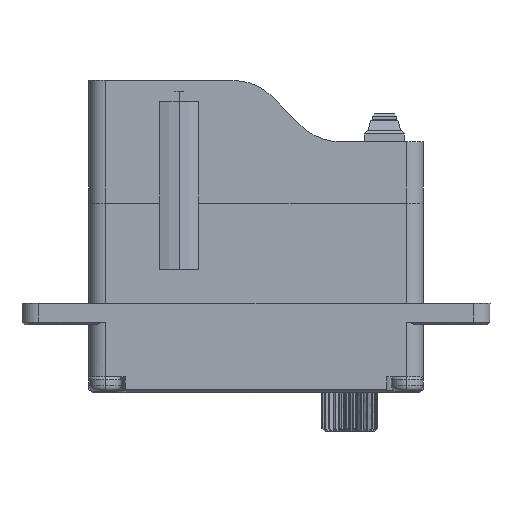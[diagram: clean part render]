
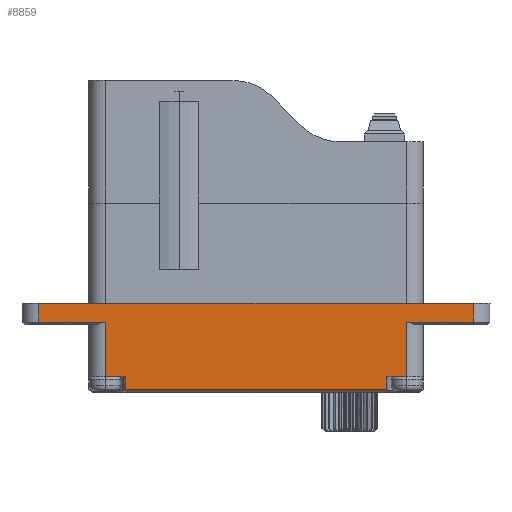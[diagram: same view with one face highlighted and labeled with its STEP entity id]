
A CAD part, left-side view. The second image highlights one B-rep face of the part: STEP entity #8859.
In plain terms, the highlighted planar face has unit normal (-1, 0, 0).
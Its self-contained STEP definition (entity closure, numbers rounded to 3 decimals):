
#140 = EDGE_CURVE ( 'NONE', #14722, #6959, #16336, .T. ) ;
#341 = LINE ( 'NONE', #5564, #12575 ) ;
#704 = EDGE_CURVE ( 'NONE', #17318, #14722, #17874, .T. ) ;
#849 = VECTOR ( 'NONE', #17345, 1000. ) ;
#1075 = ORIENTED_EDGE ( 'NONE', *, *, #17846, .T. ) ;
#1195 = EDGE_CURVE ( 'NONE', #5391, #12480, #5335, .T. ) ;
#1291 = VERTEX_POINT ( 'NONE', #8530 ) ;
#1302 = VERTEX_POINT ( 'NONE', #15300 ) ;
#1438 = ORIENTED_EDGE ( 'NONE', *, *, #9305, .T. ) ;
#1478 = CARTESIAN_POINT ( 'NONE',  ( -42.56, 0.711, -10.84 ) ) ;
#1915 = EDGE_CURVE ( 'NONE', #20252, #11994, #9716, .T. ) ;
#1923 = ORIENTED_EDGE ( 'NONE', *, *, #140, .T. ) ;
#2040 = DIRECTION ( 'NONE',  ( 0., -1., 0. ) ) ;
#2132 = CARTESIAN_POINT ( 'NONE',  ( -42.56, 0.711, -11.54 ) ) ;
#2500 = VECTOR ( 'NONE', #3343, 1000. ) ;
#2538 = ORIENTED_EDGE ( 'NONE', *, *, #20520, .T. ) ;
#2729 = LINE ( 'NONE', #8741, #6360 ) ;
#3173 = LINE ( 'NONE', #18881, #849 ) ;
#3255 = CARTESIAN_POINT ( 'NONE',  ( -42.56, 2.461, -9.74 ) ) ;
#3343 = DIRECTION ( 'NONE',  ( 0., 0., -1. ) ) ;
#3357 = VECTOR ( 'NONE', #5794, 1000. ) ;
#4381 = CARTESIAN_POINT ( 'NONE',  ( -42.56, -32.489, -10.84 ) ) ;
#4529 = DIRECTION ( 'NONE',  ( 0., -1., 0. ) ) ;
#4621 = VECTOR ( 'NONE', #4529, 1000. ) ;
#4699 = ORIENTED_EDGE ( 'NONE', *, *, #8724, .T. ) ;
#5178 = VERTEX_POINT ( 'NONE', #16434 ) ;
#5288 = VECTOR ( 'NONE', #5927, 1000. ) ;
#5335 = LINE ( 'NONE', #10081, #10315 ) ;
#5391 = VERTEX_POINT ( 'NONE', #5581 ) ;
#5564 = CARTESIAN_POINT ( 'NONE',  ( -42.56, 2.461, -11.54 ) ) ;
#5581 = CARTESIAN_POINT ( 'NONE',  ( -42.56, -22.789, -9.74 ) ) ;
#5794 = DIRECTION ( 'NONE',  ( 0., 0., 1. ) ) ;
#5844 = CARTESIAN_POINT ( 'NONE',  ( -42.56, 2.461, -4.84 ) ) ;
#5927 = DIRECTION ( 'NONE',  ( 0., -1., 0. ) ) ;
#6002 = CARTESIAN_POINT ( 'NONE',  ( -42.56, -32.489, -11.54 ) ) ;
#6073 = PLANE ( 'NONE',  #14100 ) ;
#6263 = EDGE_CURVE ( 'NONE', #11994, #5391, #9909, .T. ) ;
#6360 = VECTOR ( 'NONE', #11965, 1000. ) ;
#6959 = VERTEX_POINT ( 'NONE', #5844 ) ;
#6983 = CARTESIAN_POINT ( 'NONE',  ( -42.56, 8.461, -4.84 ) ) ;
#7051 = ORIENTED_EDGE ( 'NONE', *, *, #6263, .T. ) ;
#8032 = ORIENTED_EDGE ( 'NONE', *, *, #1195, .T. ) ;
#8379 = VERTEX_POINT ( 'NONE', #10726 ) ;
#8530 = CARTESIAN_POINT ( 'NONE',  ( -42.56, -24.539, -4.84 ) ) ;
#8695 = VECTOR ( 'NONE', #20339, 1000. ) ;
#8724 = EDGE_CURVE ( 'NONE', #1302, #8379, #3173, .T. ) ;
#8741 = CARTESIAN_POINT ( 'NONE',  ( -42.56, -34.139, -3.14 ) ) ;
#8859 = ADVANCED_FACE ( 'NONE', ( #16711 ), #6073, .T. ) ;
#9305 = EDGE_CURVE ( 'NONE', #12480, #1291, #14908, .T. ) ;
#9348 = EDGE_CURVE ( 'NONE', #1291, #1302, #20666, .T. ) ;
#9578 = CARTESIAN_POINT ( 'NONE',  ( -42.56, 8.461, -3.14 ) ) ;
#9716 = LINE ( 'NONE', #4381, #5288 ) ;
#9743 = VERTEX_POINT ( 'NONE', #3255 ) ;
#9748 = CARTESIAN_POINT ( 'NONE',  ( -42.56, -24.539, -9.74 ) ) ;
#9909 = LINE ( 'NONE', #10216, #3357 ) ;
#9977 = DIRECTION ( 'NONE',  ( 0., -1., 0. ) ) ;
#10081 = CARTESIAN_POINT ( 'NONE',  ( -42.56, -32.489, -9.74 ) ) ;
#10216 = CARTESIAN_POINT ( 'NONE',  ( -42.56, -22.789, -11.54 ) ) ;
#10315 = VECTOR ( 'NONE', #2040, 1000. ) ;
#10500 = DIRECTION ( 'NONE',  ( 0., 0., -1. ) ) ;
#10726 = CARTESIAN_POINT ( 'NONE',  ( -42.56, -30.539, -3.14 ) ) ;
#11080 = EDGE_LOOP ( 'NONE', ( #4699, #2538, #17354, #1923, #17307, #1075, #15774, #20752, #7051, #8032, #1438, #19348 ) ) ;
#11494 = LINE ( 'NONE', #2132, #18769 ) ;
#11831 = CARTESIAN_POINT ( 'NONE',  ( -42.56, 8.461, -11.54 ) ) ;
#11965 = DIRECTION ( 'NONE',  ( 0., 1., 0. ) ) ;
#11994 = VERTEX_POINT ( 'NONE', #14692 ) ;
#12133 = DIRECTION ( 'NONE',  ( 0., 0., -1. ) ) ;
#12473 = DIRECTION ( 'NONE',  ( -1., 0., 0. ) ) ;
#12480 = VERTEX_POINT ( 'NONE', #9748 ) ;
#12575 = VECTOR ( 'NONE', #10500, 1000. ) ;
#12666 = EDGE_CURVE ( 'NONE', #6959, #9743, #341, .T. ) ;
#13591 = CARTESIAN_POINT ( 'NONE',  ( -42.56, -24.539, -11.54 ) ) ;
#14100 = AXIS2_PLACEMENT_3D ( 'NONE', #6002, #12473, #20782 ) ;
#14692 = CARTESIAN_POINT ( 'NONE',  ( -42.56, -22.789, -10.84 ) ) ;
#14722 = VERTEX_POINT ( 'NONE', #6983 ) ;
#14908 = LINE ( 'NONE', #13591, #8695 ) ;
#15300 = CARTESIAN_POINT ( 'NONE',  ( -42.56, -30.539, -4.84 ) ) ;
#15774 = ORIENTED_EDGE ( 'NONE', *, *, #16055, .T. ) ;
#16055 = EDGE_CURVE ( 'NONE', #5178, #20252, #11494, .T. ) ;
#16201 = VECTOR ( 'NONE', #19065, 1000. ) ;
#16336 = LINE ( 'NONE', #19550, #4621 ) ;
#16434 = CARTESIAN_POINT ( 'NONE',  ( -42.56, 0.711, -9.74 ) ) ;
#16711 = FACE_OUTER_BOUND ( 'NONE', #11080, .T. ) ;
#17307 = ORIENTED_EDGE ( 'NONE', *, *, #12666, .T. ) ;
#17318 = VERTEX_POINT ( 'NONE', #9578 ) ;
#17345 = DIRECTION ( 'NONE',  ( 0., 0., 1. ) ) ;
#17354 = ORIENTED_EDGE ( 'NONE', *, *, #704, .T. ) ;
#17846 = EDGE_CURVE ( 'NONE', #9743, #5178, #19396, .T. ) ;
#17874 = LINE ( 'NONE', #11831, #2500 ) ;
#18630 = VECTOR ( 'NONE', #9977, 1000. ) ;
#18769 = VECTOR ( 'NONE', #12133, 1000. ) ;
#18854 = CARTESIAN_POINT ( 'NONE',  ( -42.56, -32.489, -4.84 ) ) ;
#18881 = CARTESIAN_POINT ( 'NONE',  ( -42.56, -30.539, -11.54 ) ) ;
#19065 = DIRECTION ( 'NONE',  ( 0., -1., 0. ) ) ;
#19348 = ORIENTED_EDGE ( 'NONE', *, *, #9348, .T. ) ;
#19396 = LINE ( 'NONE', #21394, #18630 ) ;
#19550 = CARTESIAN_POINT ( 'NONE',  ( -42.56, -32.489, -4.84 ) ) ;
#20252 = VERTEX_POINT ( 'NONE', #1478 ) ;
#20339 = DIRECTION ( 'NONE',  ( 0., 0., 1. ) ) ;
#20520 = EDGE_CURVE ( 'NONE', #8379, #17318, #2729, .T. ) ;
#20666 = LINE ( 'NONE', #18854, #16201 ) ;
#20752 = ORIENTED_EDGE ( 'NONE', *, *, #1915, .T. ) ;
#20782 = DIRECTION ( 'NONE',  ( 0., -1., 0. ) ) ;
#21394 = CARTESIAN_POINT ( 'NONE',  ( -42.56, -32.489, -9.74 ) ) ;
